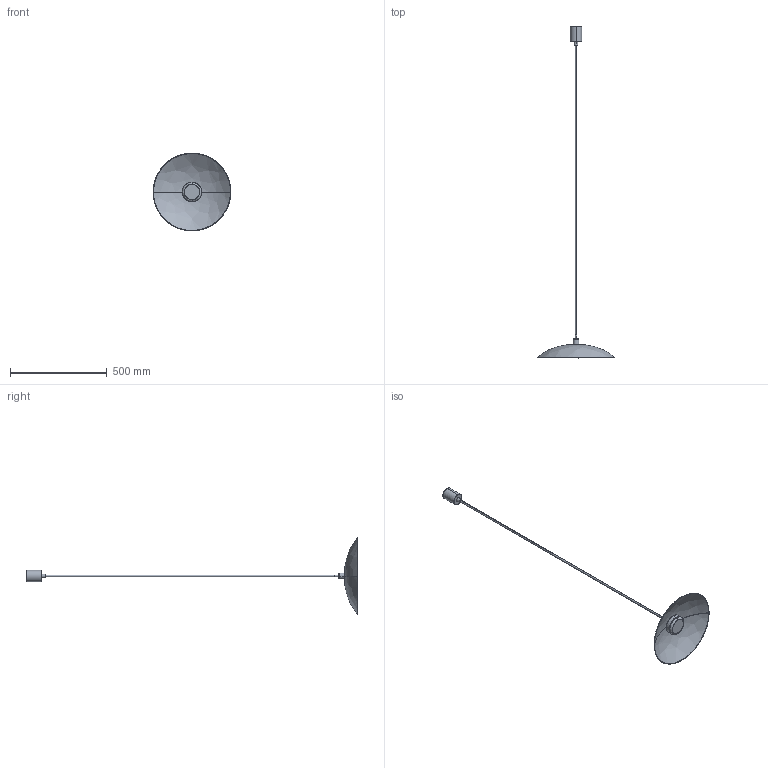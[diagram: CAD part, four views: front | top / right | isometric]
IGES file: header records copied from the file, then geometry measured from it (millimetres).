
Start section: SolidWorks IGES file using analytic representation for surfaces
Global section: file name: C:\Users\Agustin\Desktop\ENERO 2025\2D-3D\2D-3D BETTY_1338\BETTY_C1338\BETTY_C1338.IGS; native system: SolidWorks 2018; preprocessor: SolidWorks 2018; author: Agustin; date: 250117.161319; units: millimetre
Bounding box: 401.78 x 1719.59 x 401.77 mm (x, y, z)
Surface area: 435363.5 mm2 (no closed solid volume)
Topology: 0 solids, 0 shells, 51 faces, 1064 edges, 1060 vertices
Faces by surface type: bspline 33, revolution 18
